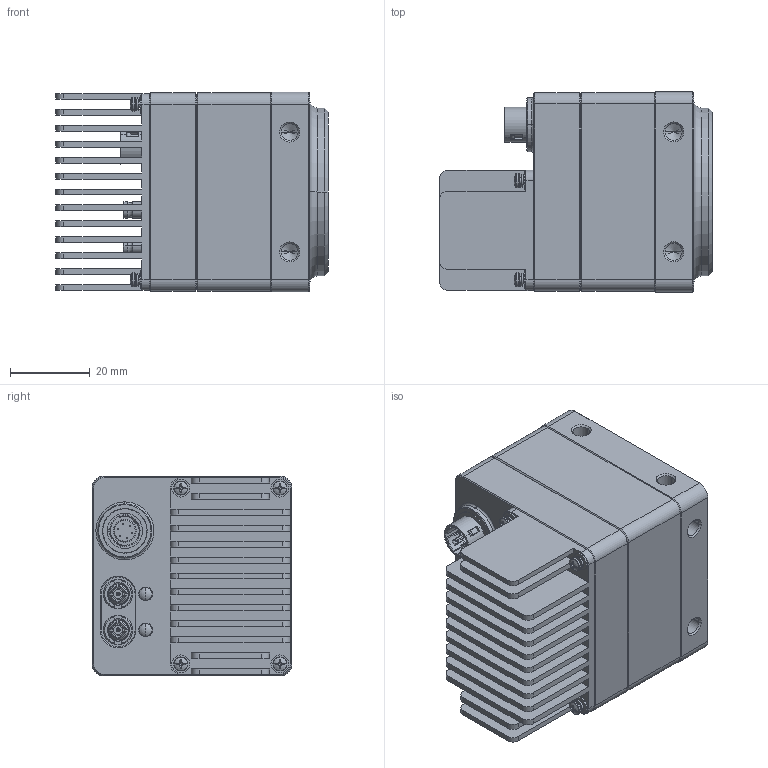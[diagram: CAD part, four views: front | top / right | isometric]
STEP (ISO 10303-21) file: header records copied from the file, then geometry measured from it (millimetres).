
FILE_DESCRIPTION((''),'2;1');
FILE_NAME('505044_65-CXP-C-3D0001','2023-05-18T10:06:22',('309376'),(''),'CREO PARAMETRIC BY PTC INC, 2020184','CREO PARAMETRIC BY PTC INC, 2020184','');
FILE_SCHEMA(('AUTOMOTIVE_DESIGN { 1 0 10303 214 1 1 1 1 }'));
Products named in the file (1): 505044_65-CXP-C-3D0001
Bounding box: 68.15 x 50 x 50 mm (x, y, z)
Volume: 58837.2 mm3; surface area: 46593.9 mm2
Topology: 5 solids, 5 shells, 2153 faces, 5889 edges, 3751 vertices
Faces by surface type: plane 849, cylinder 707, bspline 310, cone 225, torus 50, sphere 12
Full cylindrical faces by diameter (mm): 1.8 x4, 3.2 x4
Entity records: 142749 total; most frequent: CARTESIAN_POINT 59548, ORIENTED_EDGE 11682, DIRECTION 9903, PRESENTATION_STYLE_ASSIGNMENT 7554, STYLED_ITEM 5846, CURVE_STYLE 5841, EDGE_CURVE 5841, VERTEX_POINT 3827
